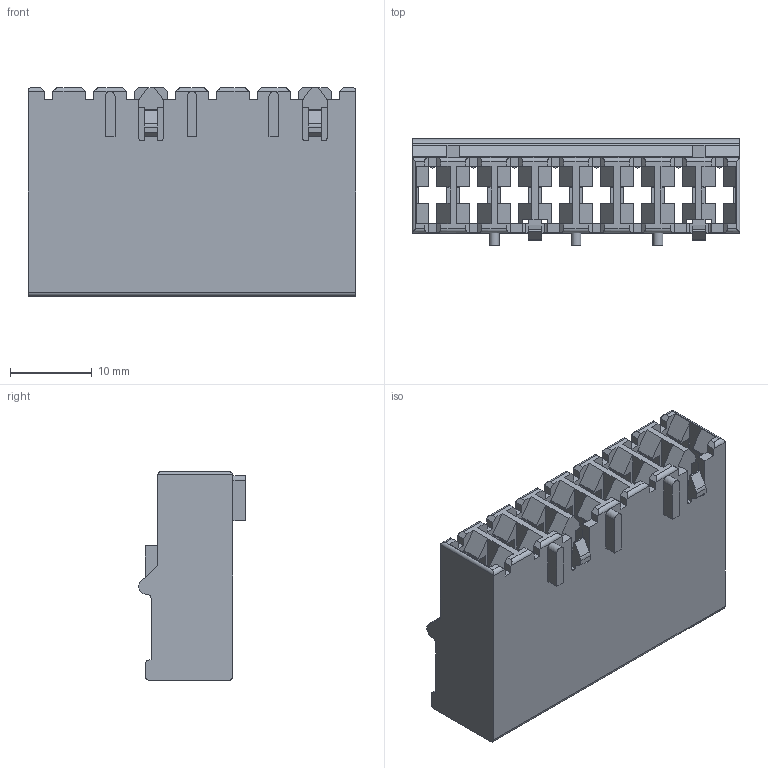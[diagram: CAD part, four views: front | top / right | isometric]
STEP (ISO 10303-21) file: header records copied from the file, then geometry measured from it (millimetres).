
FILE_DESCRIPTION(/* description */ ('STEP AP203'),/* implementation_level */ '2;1');
FILE_NAME(/* name */ 'P_MZ_Z_0999',/* time_stamp */ '2023-04-13T10:31:06+02:00',/* author */ ('License CC BY-ND 4.0'),/* organization */ ('CADENAS'),/* preprocessor_version */ 'ST-DEVELOPER v19.3',/* originating_system */ 'PARTsolutions',/* authorisation */ ' ');
FILE_SCHEMA (('CONFIG_CONTROL_DESIGN'));
Length unit declared in the file: millimetre
Products named in the file (1): P_MZ_Z_0999
Bounding box: 40 x 13 x 25.5 mm (x, y, z)
Volume: 4670.7 mm3; surface area: 7811.1 mm2
Topology: 1 solids, 1 shells, 520 faces, 1475 edges, 941 vertices
Faces by surface type: plane 474, cylinder 46
Entity records: 16536 total; most frequent: CARTESIAN_POINT 2953, ORIENTED_EDGE 2950, DIRECTION 2620, EDGE_CURVE 1475, LINE 1364, VECTOR 1364, VERTEX_POINT 941, AXIS2_PLACEMENT_3D 628
